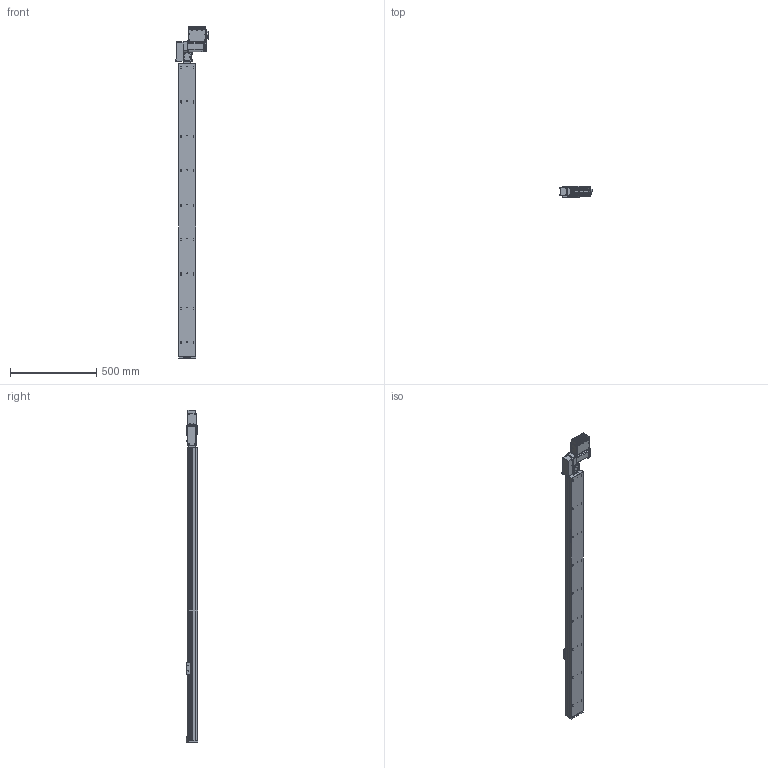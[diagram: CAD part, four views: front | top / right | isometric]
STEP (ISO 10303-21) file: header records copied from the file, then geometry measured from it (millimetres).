
FILE_DESCRIPTION (( 'STEP AP203' ), '1' );
FILE_NAME ('S10 TBN LH S1800.STEP', '2012-12-07T12:33:31', ( 'Conseil Régional Haute-Normandie' ), ( 'Conseil Régional Haute-Normandie' ), 'SwSTEP 2.0', 'SolidWorks 2010', '' );
FILE_SCHEMA (( 'CONFIG_CONTROL_DESIGN' ));
Length unit declared in the file: millimetre
Products named in the file (30): S10 TBN LH S1800; Cvis M5 L30_Default; embout; Vis M5 L16-2_Default_1; vis M5 L12_Default; vis M5 L5_Default; BU45 Carte d''axe A11_5; Moteur 60BLDC90A_3; Radiateur profil_X2_00E9_X0_ 100x25_3; Colonnette ronde_3; Sub D 9cts 90_X2_00B_X0__3; axe 1800.SLDPRT_Default; axe 1700; cache t皻e axe_Default; cache t皻e_Default; palette tbn; plaque de bout s10_Default; Plaque racord_Default; renvoi LH_Default; Assem1_7; T_X2_00F4_X0_le contre le moteur_5; BU41 Carte Alimentation P05_3; Colonnette_3; Couvercle_3; T_X2_00F4_X0_le fond_3; Connecteur rond D10 3cts_5; Connecteur rond D12 4cts_5; T_X2_00F4_X0_le Arri_X2_00E8_X0_re_5; T_X2_00F4_X0_le lat_X2_00E9_X0_rale_5; Vis TF 3 torkx_1_1
Assembly tree (63 placements, depth 3):
  S10 TBN LH S1800
    vis M5 L12_Default  x4
    Cvis M5 L30_Default  x2
    Assem1_7
      Radiateur profil_X2_00E9_X0_ 100x25_3
      Vis TF 3 torkx_1_1  x21
      BU45 Carte d''axe A11_5
      T_X2_00F4_X0_le Arri_X2_00E8_X0_re_5
      Colonnette_3  x2
      Couvercle_3
      T_X2_00F4_X0_le lat_X2_00E9_X0_rale_5  x2
      Moteur 60BLDC90A_3
      Connecteur rond D12 4cts_5
      BU41 Carte Alimentation P05_3
      Connecteur rond D10 3cts_5  x2
      Sub D 9cts 90_X2_00B_X0__3
      T_X2_00F4_X0_le contre le moteur_5
      Colonnette ronde_3
      T_X2_00F4_X0_le fond_3
    axe 1800.SLDPRT_Default
      axe 1700
    renvoi LH_Default
    cache t皻e_Default  x2
    Vis M5 L16-2_Default_1  x4
    embout
    Plaque racord_Default
    vis M5 L5_Default  x4
    palette tbn
    cache t皻e axe_Default
    plaque de bout s10_Default
Bounding box: 189.8 x 66.75 x 1928.74 mm (x, y, z)
Volume: 9634537.4 mm3; surface area: 1114190.4 mm2
Topology: 61 solids, 61 shells, 2312 faces, 5733 edges, 3702 vertices
Faces by surface type: plane 1099, cylinder 996, cone 174, bspline 40, torus 3
Entity records: 48257 total; most frequent: CARTESIAN_POINT 8687, DIRECTION 7782, ORIENTED_EDGE 7062, EDGE_CURVE 3531, AXIS2_PLACEMENT_3D 2896, VERTEX_POINT 2306, VECTOR 1990, LINE 1990
